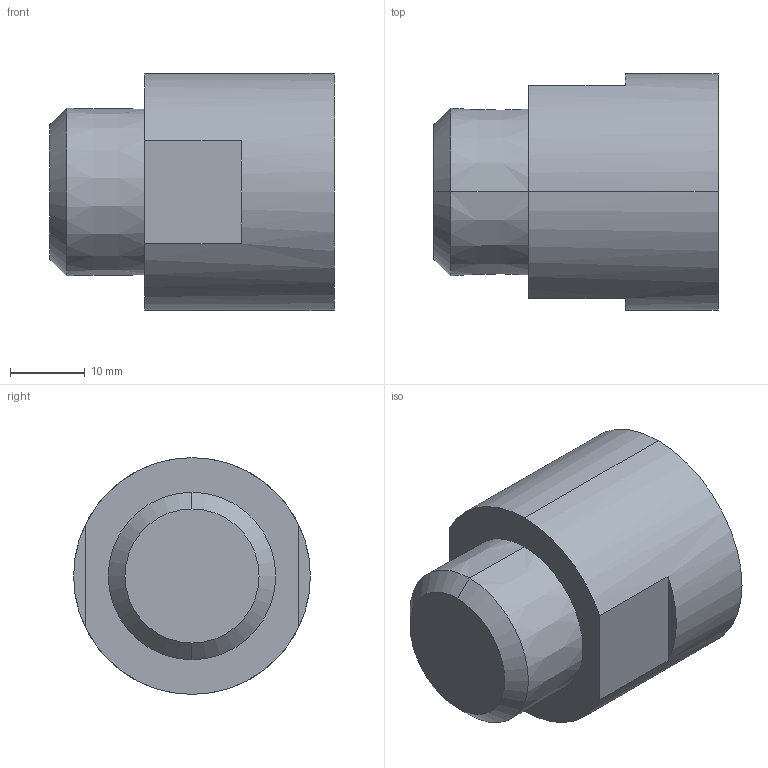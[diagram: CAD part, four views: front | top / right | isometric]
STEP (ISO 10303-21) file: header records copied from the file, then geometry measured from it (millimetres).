
FILE_DESCRIPTION (( 'STEP AP214' ), '1' );
FILE_NAME ('Fitting FNPT 04.STEP', '2012-09-26T21:08:58', ( '' ), ( '' ), 'SwSTEP 2.0', 'SolidWorks 2012', '' );
FILE_SCHEMA (( 'AUTOMOTIVE_DESIGN' ));
Length unit declared in the file: inch
Products named in the file (1): Fitting FNPT 04
Bounding box: 38.1 x 31.75 x 31.75 mm (x, y, z)
Volume: 23384.6 mm3; surface area: 5317.9 mm2
Topology: 1 solids, 1 shells, 18 faces, 38 edges, 24 vertices
Faces by surface type: plane 8, cone 6, cylinder 4
Entity records: 569 total; most frequent: DIRECTION 96, CARTESIAN_POINT 81, ORIENTED_EDGE 76, AXIS2_PLACEMENT_3D 39, EDGE_CURVE 38, VERTEX_POINT 24, CIRCLE 20, EDGE_LOOP 20
